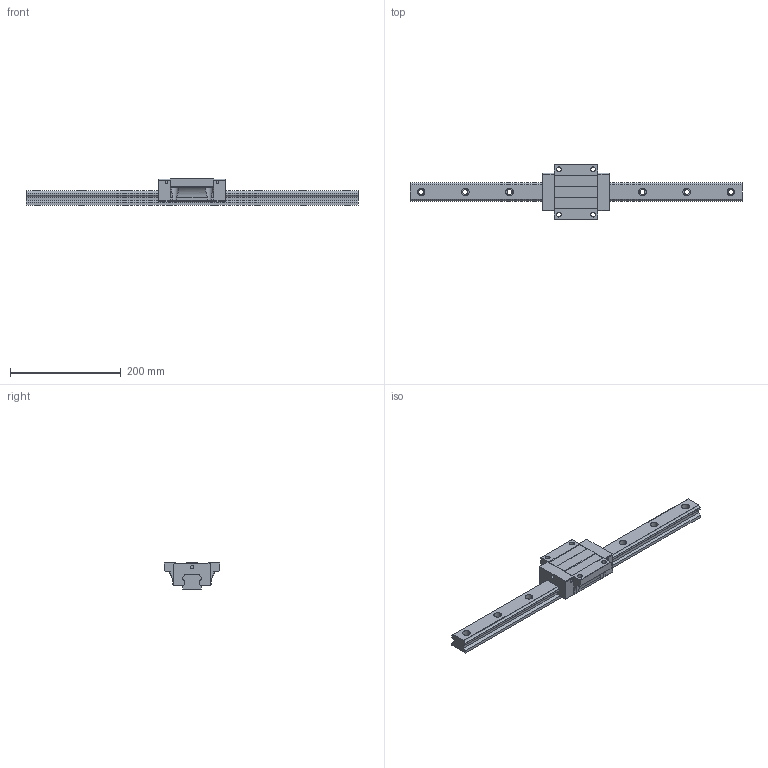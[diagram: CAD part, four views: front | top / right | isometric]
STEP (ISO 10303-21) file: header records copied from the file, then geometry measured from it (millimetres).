
FILE_DESCRIPTION (( 'STEP AP203' ), '1' );
FILE_NAME ('TRH35FN-WW.STEP', '2024-05-08T03:48:23', ( '' ), ( '' ), 'SwSTEP 2.0', 'SolidWorks 2022', '' );
FILE_SCHEMA (( 'CONFIG_CONTROL_DESIGN' ));
Length unit declared in the file: millimetre
Products named in the file (1): TRH35FN-WW
Bounding box: 600 x 100 x 48 mm (x, y, z)
Volume: 742271.7 mm3; surface area: 125807.9 mm2
Topology: 2 solids, 2 shells, 212 faces, 580 edges, 386 vertices
Faces by surface type: cylinder 112, plane 100
Entity records: 7523 total; most frequent: CARTESIAN_POINT 1875, DIRECTION 1174, ORIENTED_EDGE 1160, EDGE_CURVE 580, AXIS2_PLACEMENT_3D 409, VERTEX_POINT 386, VECTOR 356, LINE 356
